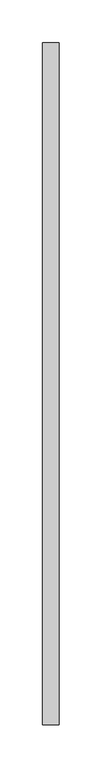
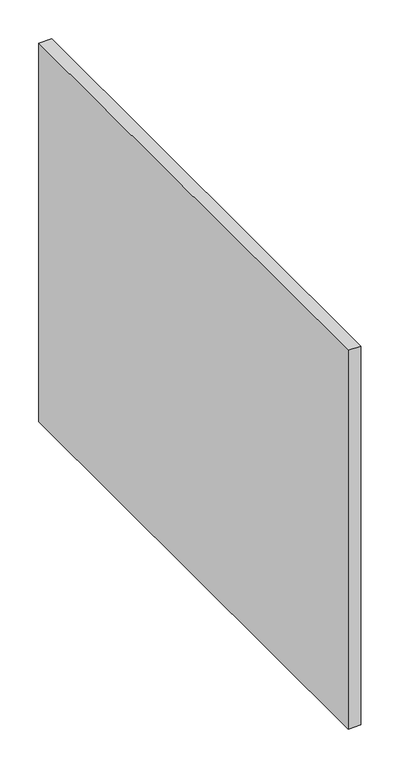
"""IFC4 building model written with IfcOpenShell, lengths in millimetres: proxy geometry, FOUNDATION^STANDARD CREDENZA_WEBSITE DETAIL-RIGHT PARTITION."""

from ifc_helpers import new_model, si_unit, frame, origin, place, context, project, spatial, polyline, outline, extrude, source, transform, mapped, element, save


def generic_models_fad23517(model_context):
    return source(origin(), model_context, "Body", "SweptSolid", [
        extrude(outline(polyline([(1824.0375, 57.15), (1804.9875, 57.15), (1804.9875, 850.9), (1824.0375, 850.9), (1824.0375, 57.15)])), frame((0.0, 0.0, 19.05), z_axis=(0.0, 0.0, 1.0), x_axis=(1.0, 0.0, 0.0)), (0.0, 0.0, 1.0), 593.725),
    ])


if __name__ == "__main__":
    model = new_model("IFC4")
    model_context = context("Model", 3, world=origin())
    ifc_project = project(units=[si_unit("LENGTHUNIT", "METRE", prefix="MILLI")], contexts=[model_context])
    site = spatial("IfcSite", under=ifc_project)
    building = spatial("IfcBuilding", under=site)
    placement = place(None, origin())
    generic_models_shape = generic_models_fad23517(model_context)
    element("IfcBuildingElementProxy", 1, Name="FOUNDATION^STANDARD CREDENZA_WEBSITE DETAIL-RIGHT PARTITION", ObjectType="FOUNDATION^STANDARD CREDENZA_WEBSITE DETAIL-RIGHT PARTITION", at=placement, inside=building, context=model_context, shape_type="MappedRepresentation", body=[
        mapped(generic_models_shape, transform((0.0, 0.0, 0.0), x_axis=(1.0, 0.0, 0.0), y_axis=(0.0, 1.0, 0.0), z_axis=(0.0, 0.0, 1.0))),
    ])
    save(model, "model.ifc")
